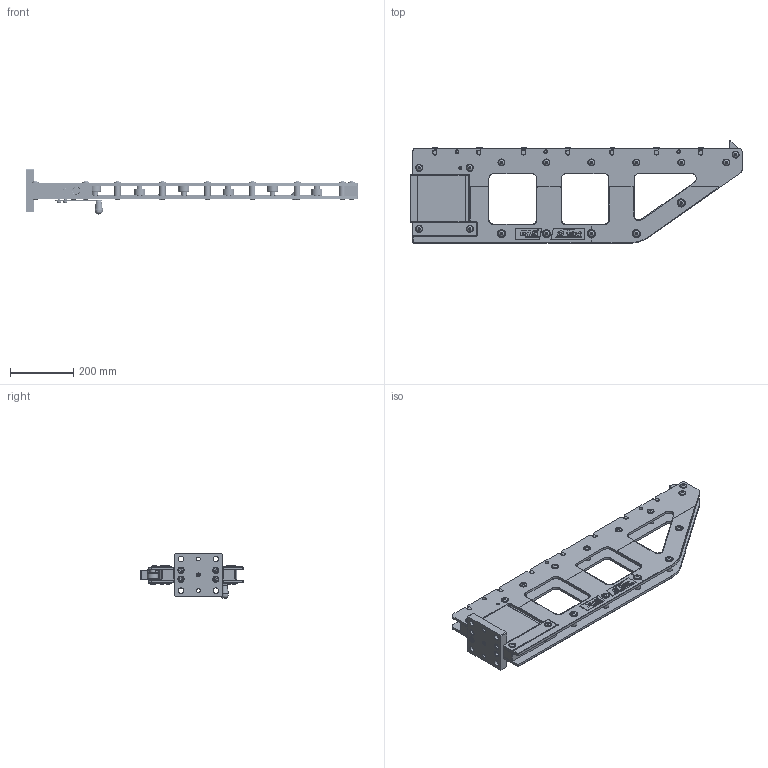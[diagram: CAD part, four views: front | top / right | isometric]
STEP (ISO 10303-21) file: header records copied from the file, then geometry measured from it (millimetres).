
FILE_DESCRIPTION(/* description */ ('CONSOLE PLATE RIGHT'),/* implementation_level */ '2;1');
FILE_NAME(/* name */ 'C:\Users\jaccow\AppData\Local\Temp\Cadac\NetworkPub\step\FB680-950.iam.stp',/* time_stamp */ '2017-12-14T12:44:49+01:00',/* author */ ('Yue'),/* organization */ (''),/* preprocessor_version */ 'ST-DEVELOPER v16.1',/* originating_system */ 'Autodesk Inventor 2016',/* authorisation */ '');
FILE_SCHEMA (('AUTOMOTIVE_DESIGN { 1 0 10303 214 3 1 1 }'));
Products named in the file (35): FB684-101; FB622-186; CCE1020-028-9A; FB832-690; FB676-690; FB620-044; FB621-104; FB627-104; DQ1504-281; FB669-101; CAE1100-1081A; DQ1397-120; FB857-026; FB858-026; FB828-298; FB682-950; FB643-101; FB642-690; CCA1227-0281A; FB633-061; FB632-070; PP0306-070; CBA821-0281B; CAA1233-0612C; PP0307-155; PP0308-155; PP0309-110; PP0377-130; PP0304-108; PP0378-108; FB641-950; PP0311-071; FB678-104; CCA615-0285C; FB680-950
Assembly tree (107 placements, depth 3):
  FB680-950
    FB682-950
      FB684-101  x2
      FB622-186  x11
      CCE1020-028-9A  x35
      FB832-690
      FB676-690
      FB620-044
      FB621-104  x5
      FB627-104  x7
      DQ1504-281  x7
      FB669-101
      CAE1100-1081A  x3
      DQ1397-120  x3
      FB857-026
      FB858-026
      FB828-298
    FB641-950
      FB643-101
      FB642-690
      CCA1227-0281A  x4
      FB633-061
      FB632-070
      PP0306-070
      CBA821-0281B
      CAA1233-0612C
      PP0307-155  x2
      PP0308-155
      PP0309-110
      PP0377-130  x2
      PP0304-108  x2
      PP0378-108  x2
    PP0311-071
    FB678-104
    CCA615-0285C  x2
Bounding box: 1049 x 323.57 x 142.5 mm (x, y, z)
Volume: 5636156.3 mm3; surface area: 1674414 mm2
Topology: 135 solids, 135 shells, 4437 faces, 10719 edges, 6966 vertices
Faces by surface type: plane 2432, bspline 900, cylinder 542, cone 432, torus 130, sphere 1
Full cylindrical faces by diameter (mm): 1.215 x7, 2.4 x7, 3 x1, 4.773 x2, 4.917 x4, 4.918 x1, 6 x4, 6.4 x1, 6.647 x1, 7.42 x2, 8 x5, 8.1 x1, 8.376 x19, 8.4 x4, 8.5 x1, 10 x60, 10.106 x4, 10.5 x3, 11 x3, 11.5 x8, 12 x6, 12.1 x3, 13 x2, 13.5 x4, 15 x16, 15.425 x1, 15.95 x5, 16 x15, 16.1 x1, 17 x2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
Entity records: 99134 total; most frequent: CARTESIAN_POINT 30541, ORIENTED_EDGE 15140, DIRECTION 10876, EDGE_CURVE 7561, LINE 5188, VECTOR 5188, VERTEX_POINT 5142, EDGE_LOOP 3632
